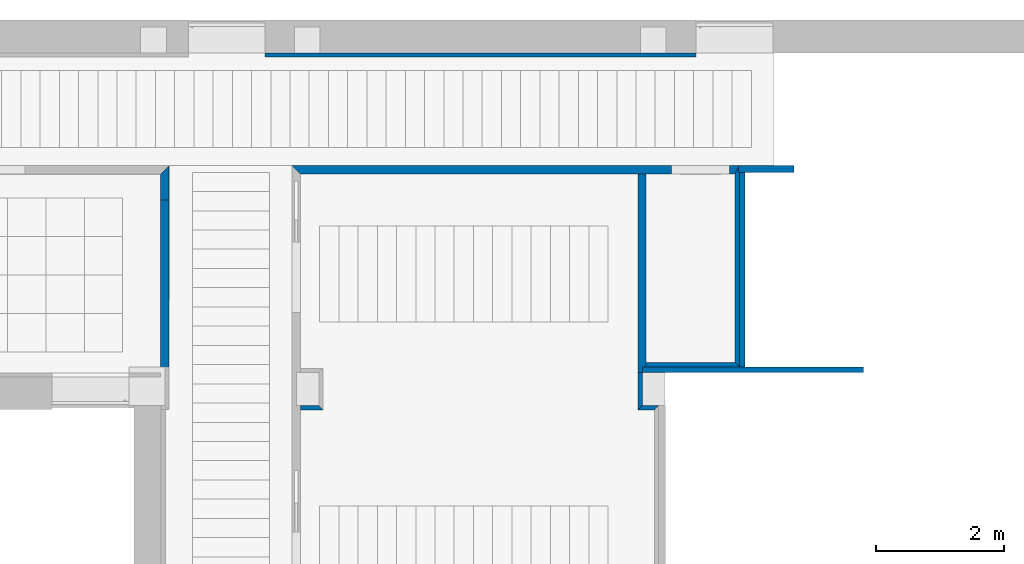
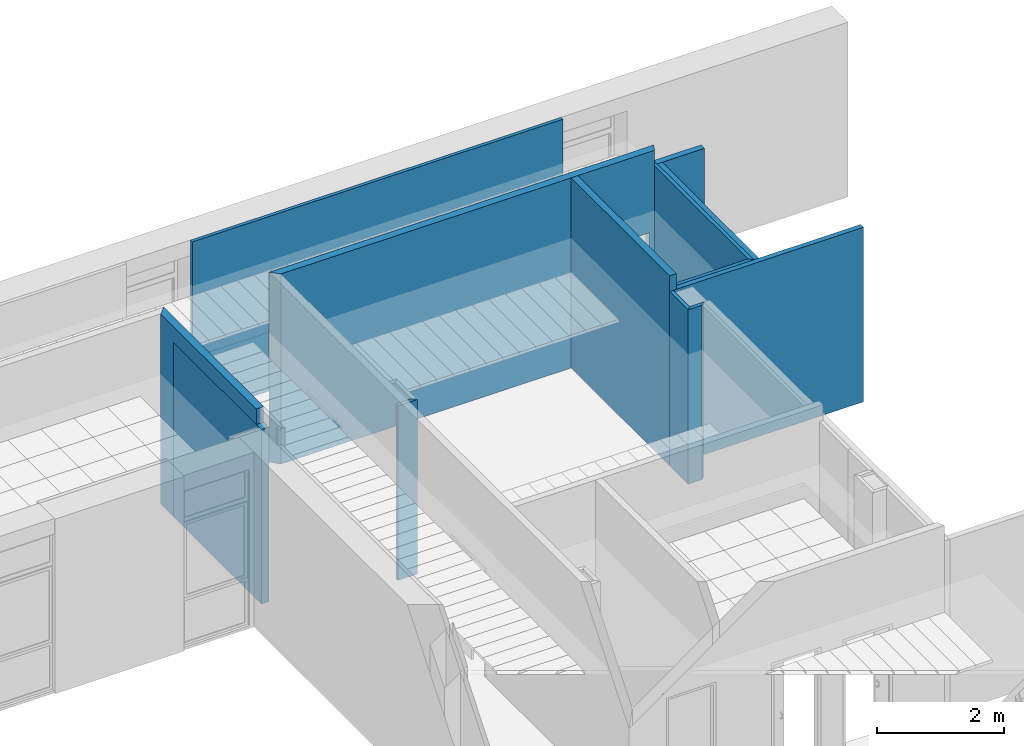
# One storey, part 43 of 60: 13 walls, 1 opening.
"""IFC2X3 building model written with IfcOpenShell, lengths in millimetres."""

from ifc_helpers import new_model, entity, si_unit, converted_unit, derived_unit, money_unit, direction, frame, origin_with_axes, origin_2d_with_axis, place, context, subcontext, project, spatial, polyline, rectangle, outline, extrude, material, layer, layer_set, layer_usage, type_object, element, save


model = new_model("IFC2X3")

# Units and contexts
model_context = context("Model", 3, precision=0.01, world=origin_with_axes(), true_north=direction((0.0, 1.0)))
body_context = subcontext(model_context, "Body", "Model", "MODEL_VIEW")
ifc_project = project(units=[si_unit("LENGTHUNIT", "METRE", prefix="MILLI"), si_unit("AREAUNIT", "SQUARE_METRE"), si_unit("VOLUMEUNIT", "CUBIC_METRE"), converted_unit("PLANEANGLEUNIT", "DEGREE", entity("IfcPlaneAngleMeasure", 0.0174532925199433), si_unit("PLANEANGLEUNIT", "RADIAN"), dimensions=[0, 0, 0, 0, 0, 0, 0]), money_unit("USD"), converted_unit("TIMEUNIT", "Year", entity("IfcTimeMeasure", 31557600.0), si_unit("TIMEUNIT", "SECOND"), dimensions=[0, 0, 1, 0, 0, 0, 0]), si_unit("MASSUNIT", "GRAM", prefix="KILO"), si_unit("THERMODYNAMICTEMPERATUREUNIT", "DEGREE_CELSIUS"), si_unit("LUMINOUSINTENSITYUNIT", "LUMEN"), si_unit("ENERGYUNIT", "JOULE", prefix="MEGA"), derived_unit("THERMALCONDUCTANCEUNIT", [(si_unit("POWERUNIT", "WATT"), 1), (si_unit("LENGTHUNIT", "METRE"), -1), (si_unit("THERMODYNAMICTEMPERATUREUNIT", "KELVIN"), -1)]), derived_unit("SPECIFICHEATCAPACITYUNIT", [(si_unit("ENERGYUNIT", "JOULE"), 1), (si_unit("MASSUNIT", "GRAM", prefix="KILO"), -1), (si_unit("THERMODYNAMICTEMPERATUREUNIT", "KELVIN"), -1)]), derived_unit("MASSDENSITYUNIT", [(si_unit("MASSUNIT", "GRAM", prefix="KILO"), 1), (si_unit("VOLUMEUNIT", "CUBIC_METRE"), -1)])], contexts=[model_context])

# Site, building, storey
site_placement = place(None, origin_with_axes())
site = spatial("IfcSite", under=ifc_project, at=site_placement, Name="Sitio", CompositionType="ELEMENT")
building_placement = place(site_placement, origin_with_axes())
building = spatial("IfcBuilding", under=site, at=building_placement, Name="Construcción", CompositionType="ELEMENT")
storey_placement = place(building_placement, frame((0.0, 0.0, 3650.0), z_axis=(0.0, 0.0, 1.0), x_axis=(1.0, 0.0, 0.0)))
storey = spatial("IfcBuildingStorey", under=building, at=storey_placement, Name="PLANTA 2ª", CompositionType="ELEMENT", Elevation=3650.0)

# Wall, opening
ifc_material_1 = material(Name="Panel de Yeso Laminado")
ifc_layer_1 = layer(ifc_material_1, 13.0, ventilated="UNKNOWN")
ifc_layer_2 = layer(ifc_material_1, 13.0, ventilated="UNKNOWN")
ifc_material_2 = material(Name="ARQ_AI033_Aillament_Llana_De_Roca")
ifc_layer_3 = layer(ifc_material_2, 70.0, ventilated="UNKNOWN")
ifc_layer_4 = layer(ifc_material_1, 13.0, ventilated="UNKNOWN")
ifc_layer_5 = layer(ifc_material_1, 13.0, ventilated="UNKNOWN")
ifc_material_3 = material(Name="ARQ_EN271_Camara_Aire")
ifc_layer_6 = layer(ifc_material_3, 6.0, ventilated="UNKNOWN")
ifc_material_4 = material(Name="ARQ_FU093_Panellat_HPL")
ifc_layer_7 = layer(ifc_material_4, 6.0, ventilated="UNKNOWN")
ifc_layer_set_1 = layer_set([ifc_layer_1, ifc_layer_2, ifc_layer_3, ifc_layer_4, ifc_layer_5, ifc_layer_6, ifc_layer_7], Name="CR Pladur 70 HPL 1 cara")
ifc_layer_usage_1 = layer_usage(ifc_layer_set_1, "AXIS2", "POSITIVE", -134.0)
wall_type_1 = type_object("IfcWallType", Name="CR Pladur 70 HPL 1 cara 134", PredefinedType="NOTDEFINED")
wall_1_placement = place(storey_placement, frame((358.8909950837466, 2109.554870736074, 0.0), z_axis=(0.0, 0.0, 1.0), x_axis=(1.0, 0.0, 0.0)))
wall_1 = element("IfcWallStandardCase", 1, at=wall_1_placement, inside=storey, type_object=wall_type_1, material=ifc_layer_usage_1, Name="MS-212", context=body_context, shape_type="SweptSolid", body=[
    extrude(outline(polyline([(134.0000000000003, -133.9999999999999), (6917.214859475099, -133.9999999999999), (6983.2148594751, 0.0), (0.0, 0.0), (134.0000000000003, -133.9999999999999)])), origin_with_axes(), (0.0, 0.0, 1.0), 3650.0),
])
opening_placement = place(wall_1_placement, frame((6378.420332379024, 0.0, 0.0), z_axis=(0.0, 0.0, 1.0), x_axis=(1.0, 0.0, 0.0)))
element("IfcOpeningElement", 2, at=opening_placement, cuts=wall_1, Name="P-02", context=body_context, shape_type="SweptSolid", body=[
    extrude(rectangle(XDim=900.0000000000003, YDim=2100.0, at=origin_2d_with_axis()), frame((0.0, -133.9999999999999, 1050.0), z_axis=(0.0, -1.0, 0.0), x_axis=(1.0, 0.0, 0.0)), (0.0, 0.0, -1.0), 402.0),
])

# Walls
ifc_layer_usage_2 = layer_usage(ifc_layer_set_1, "AXIS2", "NEGATIVE", 0.0)
wall_2_placement = place(storey_placement, frame((-1690.109004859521, -1033.975985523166, 0.0), z_axis=(0.0, 0.0, 1.0), x_axis=(0.0, 1.0, 0.0)))
element("IfcWallStandardCase", 3, at=wall_2_placement, inside=storey, type_object=wall_type_1, material=ifc_layer_usage_2, Name="MS-211", context=body_context, shape_type="SweptSolid", body=[
    extrude(outline(polyline([(0.0, -133.9999999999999), (3143.530856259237, -134.0000000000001), (3009.530856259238, 0.0), (0.0, 0.0), (0.0, -133.9999999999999)])), origin_with_axes(), (0.0, 0.0, 1.0), 3650.0),
])
ifc_layer_usage_3 = layer_usage(ifc_layer_set_1, "AXIS2", "NEGATIVE", 0.0)
wall_3_placement = place(storey_placement, frame((-1690.109004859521, -1193.975823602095, 0.0), z_axis=(0.0, 0.0, 1.0), x_axis=(0.0, 1.0, 0.0)))
element("IfcWallStandardCase", 4, at=wall_3_placement, inside=storey, type_object=wall_type_1, material=ifc_layer_usage_3, Name="MS-213", context=body_context, shape_type="SweptSolid", body=[
    extrude(outline(polyline([(0.0, -133.9999999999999), (2760.828879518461, -133.9999999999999), (2760.828879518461, 0.0), (0.0, 0.0), (0.0, -133.9999999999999)])), origin_with_axes(), (0.0, 0.0, 1.0), 3350.0),
])
ifc_layer_8 = layer(ifc_material_1, 13.0, ventilated="UNKNOWN")
ifc_layer_9 = layer(ifc_material_1, 13.0, ventilated="UNKNOWN")
ifc_layer_10 = layer(ifc_material_2, 70.0, ventilated="UNKNOWN")
ifc_layer_11 = layer(ifc_material_1, 13.0, ventilated="UNKNOWN")
ifc_layer_12 = layer(ifc_material_1, 13.0, ventilated="UNKNOWN")
ifc_layer_set_2 = layer_set([ifc_layer_8, ifc_layer_9, ifc_layer_10, ifc_layer_11, ifc_layer_12], Name="Pladur 70 / 2N+2N")
ifc_layer_usage_4 = layer_usage(ifc_layer_set_2, "AXIS2", "POSITIVE", -122.0)
wall_type_2 = type_object("IfcWallType", Name="Pladur 70 / 2N+2N 122", PredefinedType="NOTDEFINED")
wall_4_placement = place(storey_placement, frame((5762.890995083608, -1123.975988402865, 0.0), z_axis=(0.0, 0.0, 1.0), x_axis=(0.0, 1.0, 0.0)))
element("IfcWallStandardCase", 5, at=wall_4_placement, inside=storey, type_object=wall_type_2, material=ifc_layer_usage_4, Name="MS-212", context=body_context, shape_type="SweptSolid", body=[
    extrude(outline(polyline([(0.0, -121.9999999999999), (3099.530859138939, -121.9999999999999), (3099.530859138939, 0.0), (0.0, 0.0), (0.0, -121.9999999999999)])), origin_with_axes(), (0.0, 0.0, 1.0), 3650.0),
])
ifc_material_5 = material(Name="ARQ_AM246_Arrebossat_De_Guix")
ifc_layer_13 = layer(ifc_material_5, 10.0, ventilated="UNKNOWN")
ifc_material_6 = material(Name="ARQ_CE217_Gero")
ifc_layer_14 = layer(ifc_material_6, 90.0, ventilated="UNKNOWN")
ifc_layer_15 = layer(ifc_material_5, 10.0, ventilated="UNKNOWN")
ifc_layer_set_3 = layer_set([ifc_layer_13, ifc_layer_14, ifc_layer_15], Name="CR Enva Totxana")
ifc_layer_usage_5 = layer_usage(ifc_layer_set_3, "AXIS2", "POSITIVE", -110.0)
wall_type_3 = type_object("IfcWallType", Name="CR Enva Totxana 110", PredefinedType="NOTDEFINED")
wall_5_placement = place(storey_placement, frame((8197.99155599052, 1999.554870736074, 0.0), z_axis=(0.0, 0.0, 1.0), x_axis=(-1.0, 0.0, 0.0)))
element("IfcWallStandardCase", 6, at=wall_5_placement, inside=storey, type_object=wall_type_3, material=ifc_layer_usage_5, Name="MS-201", context=body_context, shape_type="SweptSolid", body=[
    extrude(outline(polyline([(0.0, -110.0000000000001), (865.8857014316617, -110.0000000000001), (865.8857014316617, 0.0), (0.0, 0.0), (0.0, -110.0000000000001)])), origin_with_axes(), (0.0, 0.0, 1.0), 3350.0),
])
ifc_layer_16 = layer(ifc_material_5, 10.0, ventilated="UNKNOWN")
ifc_layer_17 = layer(ifc_material_6, 70.0, ventilated="UNKNOWN")
ifc_layer_18 = layer(ifc_material_5, 10.0, ventilated="UNKNOWN")
ifc_layer_set_4 = layer_set([ifc_layer_16, ifc_layer_17, ifc_layer_18], Name="CR Enva Totxaneta")
ifc_layer_usage_6 = layer_usage(ifc_layer_set_4, "AXIS2", "POSITIVE", 0.0)
wall_type_4 = type_object("IfcWallType", Name="CR Enva Totxaneta 90", PredefinedType="NOTDEFINED")
wall_6_placement = place(storey_placement, frame((5832.105854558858, -1123.975988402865, 0.0), z_axis=(0.0, 0.0, 1.0), x_axis=(1.0, 0.0, 0.0)))
element("IfcWallStandardCase", 7, at=wall_6_placement, inside=storey, type_object=wall_type_4, material=ifc_layer_usage_6, Name="MS-204", context=body_context, shape_type="SweptSolid", body=[
    extrude(outline(polyline([(0.0, 0.0), (3446.592836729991, 0.0), (3446.592836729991, 90.00000000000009), (0.0, 90.00000000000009), (0.0, 0.0)])), origin_with_axes(), (0.0, 0.0, 1.0), 3350.0),
])
ifc_layer_usage_7 = layer_usage(ifc_layer_set_4, "AXIS2", "POSITIVE", 0.0)
wall_7_placement = place(storey_placement, frame((7432.105854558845, -1123.975988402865, 0.0), z_axis=(0.0, 0.0, 1.0), x_axis=(0.0, 1.0, 0.0)))
element("IfcWallStandardCase", 8, at=wall_7_placement, inside=storey, type_object=wall_type_4, material=ifc_layer_usage_7, Name="MS-203", context=body_context, shape_type="SweptSolid", body=[
    extrude(outline(polyline([(90.00000000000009, 0.0), (3123.530859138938, 0.0), (3123.530859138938, 89.99999999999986), (90.00000000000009, 89.99999999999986), (90.00000000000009, 0.0)])), origin_with_axes(), (0.0, 0.0, 1.0), 3350.0),
])
ifc_layer_19 = layer(ifc_material_1, 13.0, ventilated="UNKNOWN")
ifc_layer_20 = layer(ifc_material_1, 13.0, ventilated="UNKNOWN")
ifc_layer_21 = layer(ifc_material_2, 40.0, ventilated="UNKNOWN")
ifc_layer_set_5 = layer_set([ifc_layer_19, ifc_layer_20, ifc_layer_21], Name="Pladur Tras 40 / 2N")
ifc_layer_usage_8 = layer_usage(ifc_layer_set_5, "AXIS2", "POSITIVE", 0.0)
wall_type_5 = type_object("IfcWallType", Name="Pladur Tras 40 / 2N 66", PredefinedType="NOTDEFINED")
wall_8_placement = place(storey_placement, frame((7276.105854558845, -967.9759884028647, 0.0), z_axis=(0.0, 0.0, 1.0), x_axis=(-1.0, 0.0, 0.0)))
element("IfcWallStandardCase", 9, at=wall_8_placement, inside=storey, type_object=wall_type_5, material=ifc_layer_usage_8, Name="MS-212", context=body_context, shape_type="SweptSolid", body=[
    extrude(outline(polyline([(0.0, 0.0), (1391.214859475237, 0.0), (1391.214859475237, 66.00000000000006), (-65.99999999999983, 66.00000000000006), (0.0, 0.0)])), origin_with_axes(), (0.0, 0.0, 1.0), 3350.0),
])
ifc_layer_usage_9 = layer_usage(ifc_layer_set_5, "AXIS2", "POSITIVE", 0.0)
wall_9_placement = place(storey_placement, frame((5762.890995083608, -1123.975988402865, 0.0), z_axis=(0.0, 0.0, 1.0), x_axis=(0.0, -1.0, 0.0)))
element("IfcWallStandardCase", 10, at=wall_9_placement, inside=storey, type_object=wall_type_5, material=ifc_layer_usage_9, Name="MS-212", context=body_context, shape_type="SweptSolid", body=[
    extrude(outline(polyline([(0.0, 0.0), (580.999835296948, 0.0), (514.999835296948, 65.99999999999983), (0.0, 65.99999999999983), (0.0, 0.0)])), origin_with_axes(), (0.0, 0.0, 1.0), 3350.0),
])
ifc_layer_usage_10 = layer_usage(ifc_layer_set_5, "AXIS2", "NEGATIVE", 0.0)
wall_10_placement = place(storey_placement, frame((6016.105854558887, -1704.975823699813, 0.0), z_axis=(0.0, 0.0, 1.0), x_axis=(-1.0, 0.0, 0.0)))
element("IfcWallStandardCase", 11, at=wall_10_placement, inside=storey, type_object=wall_type_5, material=ifc_layer_usage_10, Name="MS-212", context=body_context, shape_type="SweptSolid", body=[
    extrude(outline(polyline([(-65.99999999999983, -66.00000000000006), (187.2148594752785, -66.00000000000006), (253.2148594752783, 0.0), (0.0, 0.0), (-65.99999999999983, -66.00000000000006)])), origin_with_axes(), (0.0, 0.0, 1.0), 3350.0),
])
ifc_layer_usage_11 = layer_usage(ifc_layer_set_5, "AXIS2", "NEGATIVE", 0.0)
wall_11_placement = place(storey_placement, frame((844.8910476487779, -1704.975823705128, 0.0), z_axis=(0.0, 0.0, 1.0), x_axis=(-1.0, 0.0, 0.0)))
element("IfcWallStandardCase", 12, at=wall_11_placement, inside=storey, type_object=wall_type_5, material=ifc_layer_usage_11, Name="MS-212", context=body_context, shape_type="SweptSolid", body=[
    extrude(outline(polyline([(66.00000000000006, -66.00000000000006), (352.0000525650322, -66.00000000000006), (352.0000525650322, 0.0), (0.0, 0.0), (66.00000000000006, -66.00000000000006)])), origin_with_axes(), (0.0, 0.0, 1.0), 3350.0),
])
ifc_layer_usage_12 = layer_usage(ifc_layer_set_5, "AXIS2", "POSITIVE", 0.0)
wall_12_placement = place(storey_placement, frame((7276.105854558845, 2109.554870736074, 0.0), z_axis=(0.0, 0.0, 1.0), x_axis=(0.0, -1.0, 0.0)))
element("IfcWallStandardCase", 13, at=wall_12_placement, inside=storey, type_object=wall_type_5, material=ifc_layer_usage_12, Name="MS-212", context=body_context, shape_type="SweptSolid", body=[
    extrude(outline(polyline([(134.0000000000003, 0.0), (3077.530859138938, 0.0), (3143.530859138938, 65.99999999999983), (0.0, 65.99999999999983), (134.0000000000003, 0.0)])), origin_with_axes(), (0.0, 0.0, 1.0), 3350.0),
])
ifc_layer_22 = layer(ifc_material_5, 20.0, ventilated="UNKNOWN")
ifc_layer_23 = layer(ifc_material_3, 40.0, ventilated="UNKNOWN")
ifc_layer_set_6 = layer_set([ifc_layer_22, ifc_layer_23], Name="CR Revestiment HPL")
ifc_layer_usage_13 = layer_usage(ifc_layer_set_6, "AXIS2", "POSITIVE", -60.0)
wall_type_6 = type_object("IfcWallType", Name="CR Revestiment HPL 60", PredefinedType="NOTDEFINED")
wall_13_placement = place(storey_placement, frame((-57.31930719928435, 3863.45418658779, 0.0), z_axis=(0.0, 0.0, 1.0), x_axis=(1.0, 0.0, 0.0)))
element("IfcWallStandardCase", 14, at=wall_13_placement, inside=storey, type_object=wall_type_6, material=ifc_layer_usage_13, Name="MS-215", context=body_context, shape_type="SweptSolid", body=[
    extrude(outline(polyline([(0.0, -60.00000000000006), (6723.972566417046, -60.00000000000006), (6723.972566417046, 0.0), (0.0, 0.0), (0.0, -60.00000000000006)])), origin_with_axes(), (0.0, 0.0, 1.0), 3350.0),
])

save(model, "model.ifc")
